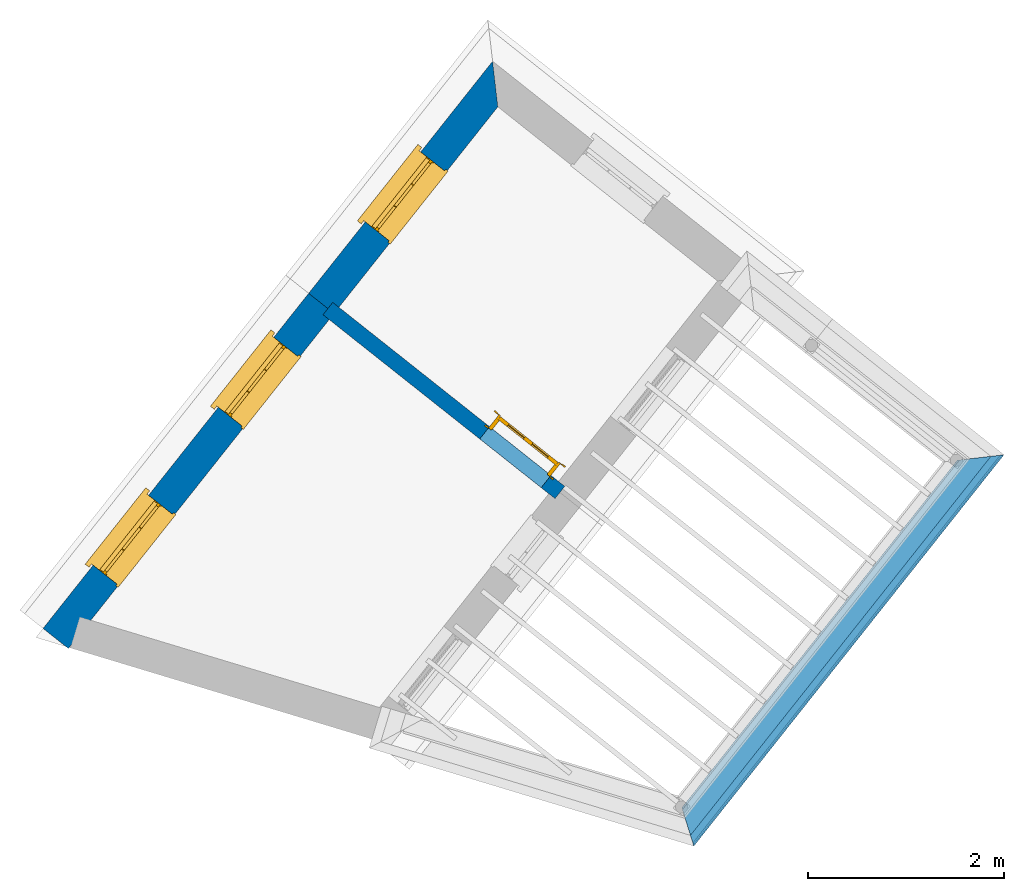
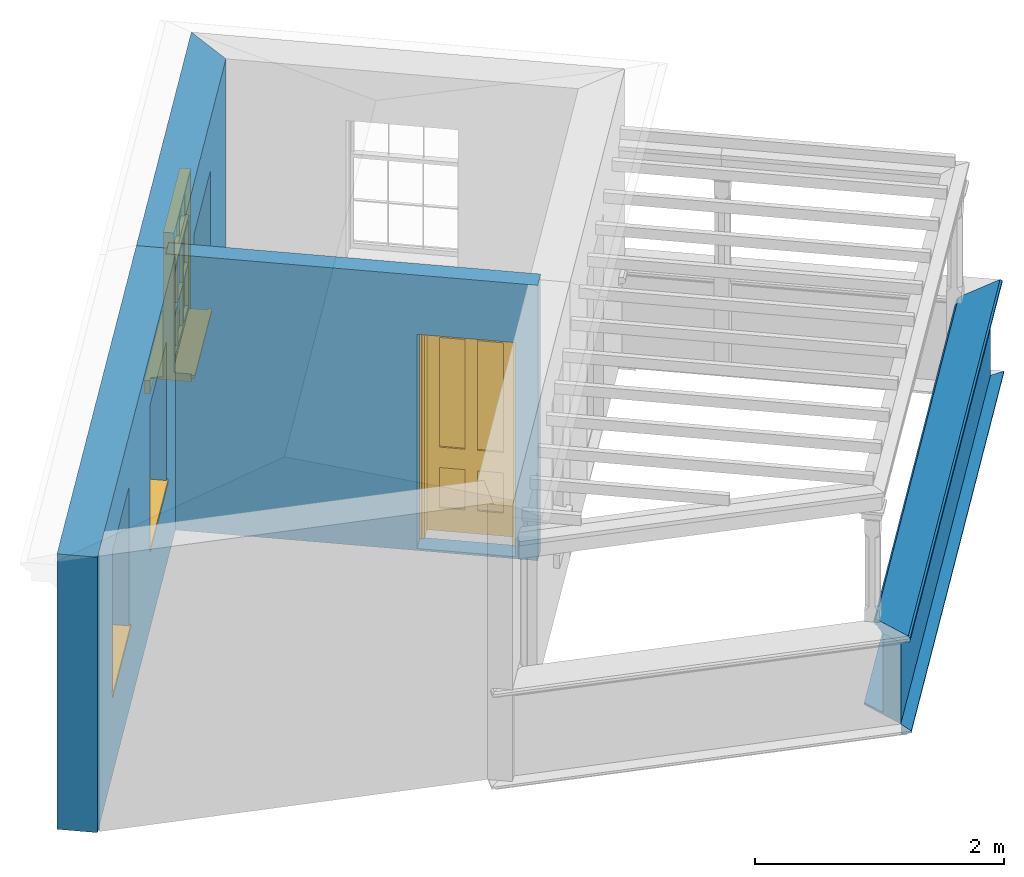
# One storey, part 3 of 5: 6 walls, 3 windows, 1 door, 4 openings.
"""IFC4 building model written with IfcOpenShell, lengths in metres."""

from ifc_helpers import new_model, si_unit, frame, origin, origin_with_axes, place, context, subcontext, project, spatial, polyline, outline, extrude, clip, halfspace, faceted_brep, source, transform, mapped, material, layer, layer_set, layer_usage, material_profile, profile_set, profile_usage, type_object, type_shapes, element, fill, save


model = new_model("IFC4")

# Units and contexts
model_context = context("Model", 3, world=origin_with_axes())
body_context = subcontext(model_context, "Body", "Model", "MODEL_VIEW")
ifc_project = project(units=[si_unit("PLANEANGLEUNIT", "RADIAN"), si_unit("MASSUNIT", "GRAM", prefix="KILO"), si_unit("FORCEUNIT", "NEWTON", prefix="KILO"), si_unit("LENGTHUNIT", "METRE"), si_unit("AREAUNIT", "SQUARE_METRE"), si_unit("VOLUMEUNIT", "CUBIC_METRE")], contexts=[model_context, model_context])

# Sites, building, storey
site_1_placement = place(None, origin_with_axes())
site_1 = spatial("IfcSite", under=ifc_project, at=site_1_placement, Name="Tamar")
site_2_placement = place(site_1_placement, origin_with_axes())
site_2 = spatial("IfcSite", under=site_1, at=site_2_placement, Name="Site plot-5", CompositionType="ELEMENT")
building_placement = place(None, origin_with_axes())
building = spatial("IfcBuilding", under=site_2, at=building_placement, Name="Building plot-5", CompositionType="ELEMENT")
storey_placement = place(None, frame((0.0, 0.0, 30.15), z_axis=(0.0, 0.0, 1.0), x_axis=(1.0, 0.0, 0.0)))
storey = spatial("IfcBuildingStorey", under=building, at=storey_placement, Name="plot-5 2", CompositionType="ELEMENT", Elevation=30.15)

# Wall, opening, window
ifc_material_1 = material(Name="Masonry")
ifc_layer_1 = layer(ifc_material_1, 0.33, ventilated=False)
ifc_layer_set_1 = layer_set([ifc_layer_1], Name="exterior_0.08_0.25")
ifc_layer_usage_1 = layer_usage(ifc_layer_set_1, "AXIS2", "POSITIVE", -0.25)
wall_type_1 = type_object("IfcWallType", Name="exterior_0.08_0.25", PredefinedType="SOLIDWALL", material=ifc_layer_set_1)
wall_1_placement = place(storey_placement, frame((229.516474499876, 277.552656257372, 0.0), z_axis=(0.0, 0.0, 1.0), x_axis=(-0.621192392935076, -0.783658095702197, 0.0)))
wall_1 = element("IfcWall", 1, at=wall_1_placement, inside=storey, type_object=wall_type_1, material=ifc_layer_usage_1, Name="exterior", context=body_context, shape_type="SweptSolid", body=[
    extrude(outline(polyline([(0.0799999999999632, 0.0799999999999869), (-0.249999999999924, -0.250000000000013), (2.77068773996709, -0.249999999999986), (2.77068773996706, 0.0799999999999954), (0.0799999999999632, 0.0799999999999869)])), origin_with_axes(), (0.0, 0.0, 1.0), 2.7),
])
opening_1_placement = place(wall_1_placement, frame((0.930343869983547, 0.0, 0.75)))
opening_1 = element("IfcOpeningElement", 2, at=opening_1_placement, cuts=wall_1, Name="My Opening", ObjectType="Opening", context=body_context, shape_type="SweptSolid", body=[
    extrude(outline(polyline([(0.0, -0.269999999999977), (0.909999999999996, -0.269999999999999), (0.909999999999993, 1.1), (-3.99680288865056e-15, 1.10000000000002), (0.0, -0.269999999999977)])), origin_with_axes(), (0.0, 0.0, 1.0), 1.445),
])
window_type = type_object("IfcWindowType", Name="sash_shorter", PartitioningType="DOUBLE_PANEL_HORIZONTAL", PredefinedType="NOTDEFINED")
shared_shape_1 = source(origin(), body_context, "Body", "Brep", [
    faceted_brep([(0.876875, 0.145, 0.999097), (0.876875, 0.145, 1.411875), (0.9, 0.145, 1.435), (0.033125, 0.145, 1.411875), (0.033125, 0.145, 0.999097), (0.01, 0.145, 1.435), (0.033125, 0.115, 1.411875), (0.01, 0.115, 1.435), (0.033125, 0.115, 0.999097), (0.876875, 0.115, 1.411875), (0.876875, 0.115, 0.999097), (0.9, 0.115, 1.435), (0.033125, 0.145, 0.960972), (0.01, 0.145, 0.960972), (0.033125, 0.145, 0.548195), (0.876875, 0.145, 0.960972), (0.876875, 0.145, 0.548195), (0.9, 0.145, 0.960972), (0.876875, 0.145, 0.538195), (0.876875, 0.145, 0.125417), (0.9, 0.145, 0.077167), (0.033125, 0.145, 0.125417), (0.033125, 0.145, 0.538195), (0.01, 0.145, 0.077167), (0.9, 0.115, 0.960972), (0.01, 0.115, 0.960972), (-0.0425, 0.0, 0.01), (-0.0425, -0.05, 0.001667), (0.0, 0.0, 0.01), (0.9525, 0.0, 0.01), (0.91, 0.0, 0.01), (0.9525, -0.05, 0.001667), (-0.02, 0.33, 0.077167), (0.0, 0.33, 0.077167), (-0.02, 0.36, 0.077167), (0.0, 0.19, 0.077167), (0.01, 0.19, 0.077167), (0.91, 0.19, 0.077167), (0.91, 0.33, 0.077167), (0.9, 0.19, 0.077167), (0.93, 0.33, 0.077167), (0.93, 0.36, 0.077167), (0.01, 0.145, 0.999097), (0.01, 0.175, 0.999097), (0.9, 0.145, 0.999097), (0.9, 0.175, 0.999097), (0.876875, 0.175, 0.125417), (0.876875, 0.175, 0.538195), (0.9, 0.175, 0.077167), (0.876875, 0.175, 0.548195), (0.876875, 0.175, 0.960972), (0.033125, 0.175, 0.125417), (0.01, 0.175, 0.077167), (0.033125, 0.175, 0.538195), (0.033125, 0.175, 0.960972), (0.033125, 0.175, 0.548195), (-0.02, 0.33, 0.052167), (-0.02, 0.36, 0.052167), (0.93, 0.36, 0.052167), (0.93, 0.33, 0.052167), (0.91, 0.33, 0.052167), (0.0, 0.33, 0.052167), (0.91, 0.1, 0.026667), (0.0, 0.1, 0.026667), (-0.0425, -0.05, -0.123333), (0.9525, -0.05, -0.123333), (-0.0425, 0.0, -0.123333), (0.9525, 0.0, -0.123333), (0.01, 0.19, 1.435), (0.9, 0.19, 1.435), (0.0, 0.19, 1.445), (0.91, 0.19, 1.445), (0.01, 0.1, 0.077167), (0.9, 0.1, 0.077167), (0.592292, 0.145, 0.125417), (0.592292, 0.175, 0.125417), (0.317708, 0.175, 0.125417), (0.317708, 0.145, 0.125417), (0.592292, 0.145, 0.548195), (0.317708, 0.145, 0.548195), (0.317708, 0.145, 0.538195), (0.592292, 0.145, 0.538195), (0.592292, 0.175, 0.548195), (0.317708, 0.175, 0.548195), (0.602292, 0.175, 0.548195), (0.602292, 0.145, 0.548195), (0.317708, 0.175, 0.538195), (0.307708, 0.175, 0.125417), (0.307708, 0.175, 0.538195), (0.602292, 0.175, 0.538195), (0.602292, 0.175, 0.125417), (0.592292, 0.175, 0.538195), (0.307708, 0.175, 0.548195), (0.317708, 0.175, 0.960972), (0.307708, 0.175, 0.960972), (0.602292, 0.175, 0.960972), (0.592292, 0.175, 0.960972), (0.307708, 0.145, 0.538195), (0.307708, 0.145, 0.125417), (0.307708, 0.145, 0.548195), (0.307708, 0.145, 0.960972), (0.592292, 0.145, 0.960972), (0.317708, 0.145, 0.960972), (0.602292, 0.145, 0.960972), (0.602292, 0.145, 0.538195), (0.602292, 0.145, 0.125417), (0.317708, 0.115, 1.411875), (0.307708, 0.115, 1.411875), (0.307708, 0.115, 0.999097), (0.317708, 0.115, 0.999097), (0.602292, 0.115, 1.411875), (0.592292, 0.115, 1.411875), (0.592292, 0.115, 0.999097), (0.602292, 0.115, 0.999097), (0.317708, 0.145, 0.999097), (0.307708, 0.145, 0.999097), (0.307708, 0.145, 1.411875), (0.317708, 0.145, 1.411875), (0.602292, 0.145, 0.999097), (0.592292, 0.145, 0.999097), (0.592292, 0.145, 1.411875), (0.602292, 0.145, 1.411875), (0.91, 0.1, 1.445), (0.9, 0.1, 1.435), (0.01, 0.1, 1.435), (0.0, 0.1, 1.445), (0.91, 0.0, 0.0), (0.0, 0.0, 0.0), (0.91, 0.33, 0.0), (0.0, 0.33, 0.0)], [[[0, 1, 2]], [[3, 4, 5]], [[6, 7, 8]], [[9, 10, 11]], [[12, 13, 14]], [[15, 16, 17]], [[18, 19, 20]], [[21, 22, 23]], [[24, 15, 17]], [[13, 12, 25]], [[26, 27, 28]], [[29, 30, 31]], [[32, 33, 34]], [[35, 36, 33]], [[37, 38, 39]], [[40, 41, 38]], [[42, 4, 43]], [[44, 45, 0]], [[46, 47, 48]], [[49, 50, 45]], [[51, 52, 53]], [[54, 55, 43]], [[38, 33, 36, 39]], [[41, 34, 33, 38]], [[56, 32, 34, 57]], [[57, 34, 41, 58]], [[58, 41, 40, 59]], [[57, 58, 60, 61]], [[52, 48, 39, 36]], [[62, 63, 28, 30]], [[27, 31, 30, 28]], [[27, 64, 65, 31]], [[66, 67, 65, 64]], [[2, 5, 68, 69]], [[68, 70, 71, 69]], [[20, 23, 72, 73]], [[73, 72, 63, 62]], [[74, 75, 76, 77]], [[78, 79, 80, 81]], [[78, 82, 83, 79]], [[16, 49, 84, 85]], [[86, 76, 87, 88]], [[89, 90, 75, 91]], [[92, 88, 53, 55]], [[82, 91, 86, 83]], [[93, 83, 92, 94]], [[95, 84, 82, 96]], [[89, 84, 49, 47]], [[97, 88, 87, 98]], [[22, 53, 88, 97]], [[81, 91, 75, 74]], [[80, 86, 91, 81]], [[77, 76, 86, 80]], [[99, 92, 55, 14]], [[100, 94, 92, 99]], [[101, 96, 82, 78]], [[79, 83, 93, 102]], [[85, 84, 95, 103]], [[104, 89, 47, 18]], [[105, 90, 89, 104]], [[104, 18, 16, 85]], [[80, 97, 98, 77]], [[104, 81, 74, 105]], [[103, 101, 78, 85]], [[99, 14, 22, 97]], [[102, 100, 99, 79]], [[106, 107, 108, 109]], [[110, 111, 112, 113]], [[114, 115, 116, 117]], [[118, 119, 120, 121]], [[107, 116, 115, 108]], [[111, 120, 119, 112]], [[109, 114, 117, 106]], [[113, 118, 121, 110]], [[85, 78, 81, 104]], [[84, 89, 91, 82]], [[83, 86, 88, 92]], [[79, 99, 97, 80]], [[109, 112, 119, 114]], [[102, 93, 96, 101]], [[106, 117, 120, 111]], [[98, 87, 51, 21]], [[6, 3, 116, 107]], [[110, 121, 1, 9]], [[19, 46, 90, 105]], [[26, 66, 64, 27]], [[29, 31, 65, 67]], [[25, 24, 112, 109]], [[11, 7, 106, 111]], [[75, 48, 52, 76]], [[43, 45, 96, 93]], [[45, 43, 114, 119]], [[5, 2, 120, 117]], [[24, 25, 102, 101]], [[42, 5, 4]], [[2, 44, 0]], [[49, 45, 48, 47]], [[52, 43, 55, 53]], [[14, 13, 23, 22]], [[20, 17, 16, 18]], [[24, 11, 10]], [[25, 8, 7]], [[8, 4, 3, 6]], [[9, 1, 0, 10]], [[15, 50, 49, 16]], [[18, 47, 46, 19]], [[21, 51, 53, 22]], [[14, 55, 54, 12]], [[44, 2, 69, 45]], [[68, 5, 42, 43]], [[36, 35, 70, 68]], [[39, 69, 71, 37]], [[62, 122, 123, 73]], [[63, 72, 124, 125]], [[8, 108, 115, 4]], [[113, 10, 0, 118]], [[94, 100, 12, 54]], [[17, 20, 73, 24]], [[72, 23, 13, 25]], [[52, 36, 68, 43]], [[69, 39, 48, 45]], [[11, 24, 73, 123]], [[7, 124, 72, 25]], [[23, 77, 98]], [[98, 21, 23]], [[105, 74, 20]], [[20, 19, 105]], [[20, 74, 77, 23]], [[113, 112, 24]], [[24, 10, 113]], [[25, 109, 108]], [[108, 8, 25]], [[110, 9, 11]], [[11, 111, 110]], [[7, 6, 107]], [[107, 106, 7]], [[5, 117, 116]], [[116, 3, 5]], [[121, 120, 2]], [[2, 1, 121]], [[11, 123, 124, 7]], [[122, 125, 124, 123]], [[43, 93, 94]], [[94, 54, 43]], [[96, 45, 95]], [[50, 95, 45]], [[15, 103, 95, 50]], [[48, 75, 90]], [[90, 46, 48]], [[87, 76, 52]], [[52, 51, 87]], [[103, 15, 24]], [[24, 101, 103]], [[100, 102, 25]], [[25, 12, 100]], [[115, 114, 43]], [[43, 4, 115]], [[118, 0, 45]], [[45, 119, 118]], [[71, 70, 125, 122]], [[70, 35, 63, 125]], [[122, 62, 37, 71]], [[126, 67, 66, 127]], [[60, 58, 59]], [[38, 60, 59, 40]], [[61, 56, 57]], [[32, 56, 61, 33]], [[61, 60, 128, 129]], [[62, 60, 38, 37]], [[126, 128, 60, 62]], [[33, 61, 63, 35]], [[61, 129, 127, 63]], [[128, 126, 127, 129]], [[28, 127, 66, 26]], [[63, 127, 28]], [[29, 67, 126, 30]], [[30, 126, 62]]]),
])
type_shapes(window_type, [shared_shape_1])
window_1_placement = place(storey_placement, frame((228.726964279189, 276.991306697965, 0.75), z_axis=(0.0, 0.0, 1.0), x_axis=(-0.565285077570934, -0.713128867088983, 0.0)))
window_1 = element("IfcWindow", 3, at=window_1_placement, inside=storey, type_object=window_type, Name="circulation outside window", OverallHeight=1.445, OverallWidth=0.91, context=body_context, shape_type="MappedRepresentation", body=[
    mapped(shared_shape_1, transform((0.0, 0.0, 0.0), scale=1.0)),
])
fill(opening_1, window_1)

# Wall, openings, windows
wall_2_placement = place(storey_placement, frame((227.79534435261, 275.381384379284, 0.0), z_axis=(0.0, 0.0, 1.0), x_axis=(-0.621192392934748, -0.783658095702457, 0.0)))
wall_2 = element("IfcWall", 4, at=wall_2_placement, inside=storey, type_object=wall_type_1, material=ifc_layer_usage_1, Name="exterior", context=body_context, shape_type="SweptSolid", body=[
    extrude(outline(polyline([(2.39305944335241e-14, 0.079999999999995), (-8.25852849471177e-14, -0.249999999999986), (4.36249502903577, -0.249999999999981), (4.36249502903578, 0.0800000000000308), (2.39305944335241e-14, 0.079999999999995)])), origin_with_axes(), (0.0, 0.0, 1.0), 2.7),
])
opening_2_placement = place(wall_2_placement, frame((0.573123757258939, 0.0, 0.75)))
opening_2 = element("IfcOpeningElement", 5, at=opening_2_placement, cuts=wall_2, Name="My Opening", ObjectType="Opening", context=body_context, shape_type="SweptSolid", body=[
    extrude(outline(polyline([(0.0, -0.270000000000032), (0.909999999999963, -0.270000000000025), (0.909999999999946, 1.09999999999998), (-1.69864122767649e-14, 1.09999999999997), (0.0, -0.270000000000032)])), origin_with_axes(), (0.0, 0.0, 1.0), 1.445),
])
opening_3_placement = place(wall_2_placement, frame((2.62937127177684, 0.0, 0.75)))
opening_3 = element("IfcOpeningElement", 6, at=opening_3_placement, cuts=wall_2, Name="My Opening", ObjectType="Opening", context=body_context, shape_type="SweptSolid", body=[
    extrude(outline(polyline([(0.0, -0.270000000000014), (0.909999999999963, -0.270000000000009), (0.909999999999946, 1.1), (-1.68753899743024e-14, 1.09999999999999), (0.0, -0.270000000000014)])), origin_with_axes(), (0.0, 0.0, 1.0), 1.445),
])
window_2_placement = place(storey_placement, frame((227.227736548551, 275.099973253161, 0.75), z_axis=(0.0, 0.0, 1.0), x_axis=(-0.565285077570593, -0.71312886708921, 0.0)))
window_2 = element("IfcWindow", 7, at=window_2_placement, inside=storey, type_object=window_type, Name="bedroom outside window", OverallHeight=1.445, OverallWidth=0.91, context=body_context, shape_type="MappedRepresentation", body=[
    mapped(shared_shape_1, transform((0.0, 0.0, 0.0), scale=1.0)),
])
fill(opening_2, window_2)
window_3_placement = place(storey_placement, frame((225.950411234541, 273.488578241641, 0.75), z_axis=(0.0, 0.0, 1.0), x_axis=(-0.565285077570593, -0.71312886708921, 0.0)))
window_3 = element("IfcWindow", 8, at=window_3_placement, inside=storey, type_object=window_type, Name="bedroom outside window", OverallHeight=1.445, OverallWidth=0.91, context=body_context, shape_type="MappedRepresentation", body=[
    mapped(shared_shape_1, transform((0.0, 0.0, 0.0), scale=1.0)),
])
fill(opening_3, window_3)

# Wall, opening, door
ifc_material_2 = material(Name="Masonry")
ifc_layer_2 = layer(ifc_material_2, 0.16, ventilated=False)
ifc_layer_set_2 = layer_set([ifc_layer_2], Name="interior_0.08_0.08")
ifc_layer_usage_2 = layer_usage(ifc_layer_set_2, "AXIS2", "POSITIVE", -0.08)
wall_type_2 = type_object("IfcWallType", Name="interior_0.08_0.08", PredefinedType="SOLIDWALL", material=ifc_layer_set_2)
wall_3_placement = place(storey_placement, frame((227.79534435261, 275.381384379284, 0.0), z_axis=(0.0, 0.0, 1.0), x_axis=(0.783658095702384, -0.621192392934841, 0.0)))
wall_3 = element("IfcWall", 9, at=wall_3_placement, inside=storey, type_object=wall_type_2, material=ifc_layer_usage_2, Name="interior", context=body_context, shape_type="SweptSolid", body=[
    extrude(outline(polyline([(-3.15701658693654e-15, 0.0800000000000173), (3.11169227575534e-15, -0.0800000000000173), (3.02031657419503, -0.080000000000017), (3.02031657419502, 0.0800000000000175), (-3.15701658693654e-15, 0.0800000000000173)])), origin_with_axes(), (0.0, 0.0, 1.0), 2.7),
])
opening_4_placement = place(wall_3_placement, frame((2.04031657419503, 0.0, 0.0199999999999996)))
opening_4 = element("IfcOpeningElement", 10, at=opening_4_placement, cuts=wall_3, Name="My Opening", ObjectType="Opening", context=body_context, shape_type="SweptSolid", body=[
    extrude(outline(polyline([(0.0, -0.100000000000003), (0.800000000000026, -0.100000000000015), (0.800000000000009, 1.09999999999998), (-1.73194791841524e-14, 1.09999999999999), (0.0, -0.100000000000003)])), origin_with_axes(), (0.0, 0.0, 1.0), 2.1),
])
door_type = type_object("IfcDoorType", Name="door_inside", OperationType="SINGLE_SWING_LEFT", PredefinedType="NOTDEFINED")
shared_shape_2 = source(origin(), body_context, "Body", "Brep", [
    faceted_brep([(0.773, 0.33, 1.895), (0.66, 0.33, 1.895), (0.66, 0.33, 2.073), (0.773, 0.33, 2.073), (0.773, 0.33, 0.82), (0.66, 0.33, 0.82), (0.45, 0.33, 1.895), (0.45, 0.33, 2.073), (0.773, 0.33, 0.62), (0.66, 0.33, 0.62), (0.66, 0.315, 0.82), (0.66, 0.315, 1.895), (0.45, 0.315, 1.895), (0.35, 0.33, 1.895), (0.35, 0.33, 2.073), (0.773, 0.33, 0.225), (0.66, 0.33, 0.225), (0.45, 0.33, 0.62), (0.45, 0.33, 0.82), (0.45, 0.315, 0.82), (0.35, 0.33, 0.82), (0.14, 0.33, 2.073), (0.14, 0.33, 1.895), (0.773, 0.33, 0.0), (0.66, 0.33, 0.0), (0.66, 0.315, 0.225), (0.66, 0.315, 0.62), (0.45, 0.315, 0.62), (0.35, 0.33, 0.62), (0.35, 0.315, 0.82), (0.35, 0.315, 1.895), (0.14, 0.315, 1.895), (0.027, 0.33, 2.073), (0.027, 0.33, 1.895), (0.773, 0.292, 0.0), (0.66, 0.292, 0.0), (0.45, 0.33, 0.0), (0.45, 0.33, 0.225), (0.45, 0.315, 0.225), (0.35, 0.33, 0.225), (0.14, 0.33, 0.82), (0.14, 0.33, 0.62), (0.14, 0.315, 0.82), (0.027, 0.33, 0.82), (0.773, 0.292, 0.225), (0.66, 0.292, 0.225), (0.45, 0.292, 0.0), (0.35, 0.33, 0.0), (0.35, 0.315, 0.225), (0.35, 0.315, 0.62), (0.14, 0.315, 0.62), (0.027, 0.33, 0.62), (0.773, 0.292, 0.62), (0.66, 0.292, 0.62), (0.45, 0.292, 0.225), (0.35, 0.292, 0.0), (0.14, 0.33, 0.225), (0.14, 0.33, 0.0), (0.14, 0.315, 0.225), (0.027, 0.33, 0.225), (0.773, 0.292, 0.82), (0.66, 0.292, 0.82), (0.66, 0.307, 0.62), (0.66, 0.307, 0.225), (0.45, 0.307, 0.225), (0.35, 0.292, 0.225), (0.14, 0.292, 0.0), (0.027, 0.33, 0.0), (0.773, 0.292, 1.895), (0.66, 0.292, 1.895), (0.45, 0.292, 0.62), (0.45, 0.292, 0.82), (0.45, 0.307, 0.62), (0.35, 0.292, 0.62), (0.14, 0.292, 0.225), (0.027, 0.292, 0.0), (0.773, 0.292, 2.073), (0.66, 0.292, 2.073), (0.66, 0.307, 1.895), (0.66, 0.307, 0.82), (0.45, 0.307, 0.82), (0.35, 0.292, 0.82), (0.35, 0.307, 0.62), (0.35, 0.307, 0.225), (0.14, 0.307, 0.225), (0.027, 0.292, 0.225), (0.45, 0.292, 1.895), (0.45, 0.292, 2.073), (0.45, 0.307, 1.895), (0.35, 0.292, 1.895), (0.14, 0.292, 0.82), (0.14, 0.292, 0.62), (0.14, 0.307, 0.62), (0.027, 0.292, 0.62), (0.35, 0.292, 2.073), (0.35, 0.307, 1.895), (0.35, 0.307, 0.82), (0.14, 0.307, 0.82), (0.027, 0.292, 0.82), (0.14, 0.292, 2.073), (0.14, 0.292, 1.895), (0.14, 0.307, 1.895), (0.027, 0.292, 1.895), (0.027, 0.292, 2.073), (0.02, 0.335, 0.0), (0.005, 0.34, 0.0), (0.005, 0.34, 2.095), (0.02, 0.335, 2.08), (0.02, 0.33, 0.0), (0.0, 0.335, 0.0), (0.0, 0.335, 2.1), (0.795, 0.34, 2.095), (0.78, 0.335, 2.08), (0.02, 0.33, 2.08), (0.0, 0.33, 0.0), (-0.032, 0.345, 0.0), (-0.032, 0.345, 2.132), (0.8, 0.335, 2.1), (0.795, 0.34, 0.0), (0.78, 0.335, 0.0), (0.78, 0.33, 2.08), (0.04, 0.29, 0.0), (0.025, 0.29, 0.0), (0.025, 0.29, 2.075), (0.04, 0.29, 2.06), (-0.04, 0.34, 0.0), (-0.04, 0.34, 2.14), (0.832, 0.345, 2.132), (0.8, 0.335, 0.0), (0.78, 0.33, 0.0), (0.8, 0.33, 0.0), (0.86, 0.33, 0.0), (0.86, 0.33, 2.16), (0.8, 0.33, 2.1), (-0.06, 0.33, 2.16), (0.0, 0.33, 2.1), (-0.06, 0.33, 0.0), (-0.04, 0.345, 0.0), (-0.04, 0.345, 2.14), (0.84, 0.34, 2.14), (0.832, 0.345, 0.0), (0.84, 0.34, 0.0), (0.86, 0.345, 0.0), (0.86, 0.345, 2.16), (-0.06, 0.345, 2.16), (-0.06, 0.345, 0.0), (0.84, 0.345, 0.0), (0.84, 0.345, 2.14), (-0.025, 0.155, 0.0), (-0.025, 0.16, 0.0), (-0.025, 0.16, 2.125), (-0.025, 0.155, 2.125), (-0.017, 0.155, 0.0), (-0.017, 0.155, 2.117), (0.825, 0.16, 2.125), (0.825, 0.155, 2.125), (0.825, 0.155, 0.0), (0.845, 0.155, 0.0), (-0.045, 0.155, 2.145), (-0.045, 0.155, 0.0), (0.845, 0.155, 2.145), (0.015, 0.165, 0.0), (0.015, 0.165, 2.085), (0.817, 0.155, 2.117), (0.825, 0.16, 0.0), (0.845, 0.17, 0.0), (0.845, 0.17, 2.145), (-0.045, 0.17, 2.145), (-0.045, 0.17, 0.0), (0.02, 0.16, 0.0), (0.02, 0.16, 2.08), (0.785, 0.165, 2.085), (0.817, 0.155, 0.0), (0.8, 0.17, 0.0), (0.8, 0.17, 2.1), (0.0, 0.17, 2.1), (0.0, 0.17, 0.0), (0.035, 0.165, 0.0), (0.035, 0.165, 2.065), (0.78, 0.16, 2.08), (0.785, 0.165, 0.0), (0.775, 0.29, 2.075), (0.76, 0.29, 2.06), (0.035, 0.17, 2.065), (0.035, 0.17, 0.0), (0.765, 0.165, 2.065), (0.78, 0.16, 0.0), (0.765, 0.17, 0.0), (0.765, 0.17, 2.065), (0.765, 0.165, 0.0), (0.04, 0.17, 2.06), (0.04, 0.17, 0.0), (0.76, 0.17, 2.06), (0.76, 0.17, 0.0), (0.76, 0.29, 0.0), (0.775, 0.29, 0.0), (0.025, 0.33, 0.0), (0.025, 0.33, 2.075), (0.775, 0.33, 0.0), (0.775, 0.33, 2.075)], [[[0, 1, 2, 3]], [[1, 0, 4, 5]], [[1, 6, 7, 2]], [[8, 9, 5, 4]], [[1, 5, 10, 11]], [[6, 1, 11, 12]], [[6, 13, 14, 7]], [[15, 16, 9, 8]], [[9, 17, 18, 5]], [[5, 18, 19, 10]], [[10, 19, 12, 11]], [[18, 6, 12, 19]], [[18, 20, 13, 6]], [[21, 14, 13, 22]], [[23, 24, 16, 15]], [[9, 16, 25, 26]], [[17, 9, 26, 27]], [[17, 28, 20, 18]], [[13, 20, 29, 30]], [[22, 13, 30, 31]], [[32, 21, 22, 33]], [[34, 35, 24, 23]], [[24, 36, 37, 16]], [[16, 37, 38, 25]], [[25, 38, 27, 26]], [[37, 17, 27, 38]], [[37, 39, 28, 17]], [[40, 20, 28, 41]], [[20, 40, 42, 29]], [[31, 30, 29, 42]], [[40, 22, 31, 42]], [[33, 22, 40, 43]], [[35, 34, 44, 45]], [[35, 46, 36, 24]], [[36, 47, 39, 37]], [[28, 39, 48, 49]], [[41, 28, 49, 50]], [[43, 40, 41, 51]], [[45, 44, 52, 53]], [[46, 35, 45, 54]], [[46, 55, 47, 36]], [[56, 39, 47, 57]], [[39, 56, 58, 48]], [[50, 49, 48, 58]], [[56, 41, 50, 58]], [[51, 41, 56, 59]], [[53, 52, 60, 61]], [[45, 53, 62, 63]], [[54, 45, 63, 64]], [[55, 46, 54, 65]], [[55, 66, 57, 47]], [[59, 56, 57, 67]], [[61, 60, 68, 69]], [[70, 53, 61, 71]], [[53, 70, 72, 62]], [[72, 64, 63, 62]], [[70, 54, 64, 72]], [[65, 54, 70, 73]], [[65, 74, 66, 55]], [[67, 57, 66, 75]], [[69, 68, 76, 77]], [[61, 69, 78, 79]], [[71, 61, 79, 80]], [[73, 70, 71, 81]], [[65, 73, 82, 83]], [[74, 65, 83, 84]], [[74, 85, 75, 66]], [[86, 69, 77, 87]], [[69, 86, 88, 78]], [[88, 80, 79, 78]], [[86, 71, 80, 88]], [[81, 71, 86, 89]], [[73, 81, 90, 91]], [[73, 91, 92, 82]], [[83, 82, 92, 84]], [[91, 74, 84, 92]], [[91, 93, 85, 74]], [[89, 86, 87, 94]], [[81, 89, 95, 96]], [[90, 81, 96, 97]], [[90, 98, 93, 91]], [[94, 99, 100, 89]], [[89, 100, 101, 95]], [[101, 97, 96, 95]], [[100, 90, 97, 101]], [[100, 102, 98, 90]], [[99, 103, 102, 100]], [[32, 103, 99, 21]], [[102, 103, 32, 33]], [[98, 102, 33, 43]], [[21, 99, 94, 14]], [[94, 87, 7, 14]], [[7, 87, 77, 2]], [[76, 3, 2, 77]], [[43, 51, 93, 98]], [[51, 59, 85, 93]], [[67, 75, 85, 59]], [[34, 23, 15, 44]], [[44, 15, 8, 52]], [[52, 8, 4, 60]], [[0, 68, 60, 4]], [[0, 3, 76, 68]], [[104, 105, 106, 107]], [[104, 108, 109, 105]], [[105, 109, 110, 106]], [[107, 106, 111, 112]], [[107, 113, 108, 104]], [[114, 109, 108]], [[109, 115, 116, 110]], [[106, 110, 117, 111]], [[112, 111, 118, 119]], [[113, 107, 112, 120]], [[121, 122, 123, 124]], [[115, 109, 114, 125]], [[115, 125, 126, 116]], [[110, 116, 127, 117]], [[111, 117, 128, 118]], [[118, 128, 129, 119]], [[120, 112, 119, 129]], [[130, 129, 128]], [[130, 131, 132, 133]], [[133, 132, 134, 135]], [[135, 134, 136, 114]], [[136, 125, 114]], [[125, 137, 138, 126]], [[116, 126, 139, 127]], [[117, 127, 140, 128]], [[141, 130, 128, 140]], [[131, 130, 141]], [[131, 142, 143, 132]], [[132, 143, 144, 134]], [[134, 144, 145, 136]], [[137, 125, 136, 145]], [[143, 142, 146]], [[143, 146, 147]], [[137, 145, 144]], [[143, 147, 138]], [[138, 137, 144]], [[143, 138, 144]], [[126, 138, 147, 139]], [[127, 139, 141, 140]], [[142, 131, 141, 146]], [[139, 147, 146, 141]], [[148, 149, 150, 151]], [[149, 152, 153, 150]], [[151, 150, 154, 155]], [[155, 156, 157]], [[158, 159, 148]], [[158, 148, 151]], [[155, 157, 160]], [[158, 151, 155]], [[155, 160, 158]], [[152, 161, 162, 153]], [[150, 153, 163, 154]], [[155, 154, 164, 156]], [[156, 164, 165, 157]], [[157, 165, 166, 160]], [[160, 166, 167, 158]], [[158, 167, 168, 159]], [[161, 169, 170, 162]], [[153, 162, 171, 163]], [[154, 163, 172, 164]], [[165, 164, 173]], [[165, 173, 174, 166]], [[166, 174, 175, 167]], [[167, 175, 176, 168]], [[169, 177, 178, 170]], [[162, 170, 179, 171]], [[163, 171, 180, 172]], [[172, 180, 173, 164]], [[124, 123, 181, 182]], [[183, 178, 177, 184]], [[170, 178, 185, 179]], [[171, 179, 186, 180]], [[187, 173, 180]], [[185, 188, 187, 189]], [[188, 185, 178, 183]], [[179, 185, 189, 186]], [[189, 187, 180, 186]], [[190, 183, 184, 191]], [[192, 188, 183, 190]], [[191, 184, 122, 121]], [[124, 190, 191, 121]], [[193, 187, 188, 192]], [[182, 192, 190, 124]], [[184, 176, 122]], [[194, 195, 187, 193]], [[192, 182, 194, 193]], [[161, 176, 184]], [[114, 108, 122, 176]], [[173, 187, 195]], [[152, 149, 176, 161]], [[169, 161, 184, 177]], [[196, 122, 108]], [[176, 175, 135, 114]], [[173, 195, 129, 130]], [[176, 149, 168]], [[123, 122, 196, 197]], [[196, 108, 113, 197]], [[175, 174, 133, 135]], [[198, 129, 195]], [[133, 174, 173, 130]], [[159, 168, 149, 148]], [[181, 123, 197, 199]], [[197, 113, 120, 199]], [[199, 120, 129, 198]], [[195, 181, 199, 198]], [[195, 194, 182, 181]]]),
])
type_shapes(door_type, [shared_shape_2])
door_placement = place(storey_placement, frame((229.33213571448, 274.035589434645, 0.0199999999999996), z_axis=(0.0, 0.0, 1.0), x_axis=(0.62692647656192, -0.496953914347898, 0.0)))
door = element("IfcDoor", 11, at=door_placement, inside=storey, type_object=door_type, Name="bedroom inside door", OverallHeight=2.1, OverallWidth=0.8, context=body_context, shape_type="MappedRepresentation", body=[
    mapped(shared_shape_2, transform((0.0, 0.0, 0.0), scale=1.0)),
])
fill(opening_4, door)

# Walls
ifc_material_profile_1 = material_profile(None, outline(polyline([(0.25, 0.0), (0.25, 0.795), (0.09, 0.795), (0.09, 0.02), (-0.08, 0.02), (-0.08, 0.0), (0.25, 0.0)])))
ifc_profile_set_1 = profile_set([ifc_material_profile_1])
ifc_profile_usage_1 = profile_usage(ifc_profile_set_1)
wall_type_3 = type_object("IfcWallType", Name="parapet_0", PredefinedType="PARAPET", material=ifc_profile_set_1)
wall_4_placement = place(storey_placement, frame((234.829513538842, 274.617167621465, 0.0), z_axis=(-0.621192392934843, -0.783658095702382, 0.0), x_axis=(0.783658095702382, -0.621192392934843, 0.0)))
element("IfcWall", 12, at=wall_4_placement, inside=storey, type_object=wall_type_3, material=ifc_profile_usage_1, Name="parapet_0", context=body_context, shape_type="Clipping", body=[
    clip(clip(extrude(outline(polyline([(0.25, 0.0), (0.25, 0.795), (0.09, 0.795), (0.09, 0.02), (-0.08, 0.02), (-0.08, 0.0), (0.25, 0.0)])), origin_with_axes(), (0.0, 0.0, 1.0), 6.51473191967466), halfspace(frame((0.0, 0.0, 5.51473191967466), z_axis=(0.562203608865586, 0.0, -0.826998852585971), x_axis=(0.0, 1.0, 0.0)), True)), halfspace(frame((0.0, 0.0, 1.0), z_axis=(-0.707106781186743, 0.0, -0.707106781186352), x_axis=(0.0, 1.0, 0.0)), False)),
])
ifc_material_profile_2 = material_profile(None, outline(polyline([(0.265, 0.795), (0.268, 0.807), (0.274, 0.816), (0.283, 0.822), (0.295, 0.825), (0.295, 0.84), (0.305, 0.84), (0.317, 0.842), (0.326, 0.849), (0.333, 0.858), (0.335, 0.87), (0.333, 0.882), (0.326, 0.891), (0.317, 0.898), (0.305, 0.9), (0.035, 0.9), (0.023, 0.898), (0.014, 0.891), (0.007, 0.882), (0.005, 0.87), (0.007, 0.858), (0.014, 0.849), (0.023, 0.842), (0.035, 0.84), (0.045, 0.84), (0.045, 0.825), (0.057, 0.822), (0.066, 0.816), (0.072, 0.807), (0.075, 0.795), (0.265, 0.795)])))
ifc_profile_set_2 = profile_set([ifc_material_profile_2])
ifc_profile_usage_2 = profile_usage(ifc_profile_set_2)
wall_type_4 = type_object("IfcWallType", Name="parapet_1", PredefinedType="PARAPET", material=ifc_profile_set_2)
wall_5_placement = place(storey_placement, frame((234.829513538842, 274.617167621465, 0.0), z_axis=(-0.621192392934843, -0.783658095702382, 0.0), x_axis=(0.783658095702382, -0.621192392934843, 0.0)))
element("IfcWall", 13, at=wall_5_placement, inside=storey, type_object=wall_type_4, material=ifc_profile_usage_2, Name="parapet_1", context=body_context, shape_type="Clipping", body=[
    clip(clip(extrude(outline(polyline([(0.265, 0.795), (0.268, 0.807), (0.274, 0.816), (0.283, 0.822), (0.295, 0.825), (0.295, 0.84), (0.305, 0.84), (0.317, 0.842), (0.326, 0.849), (0.333, 0.858), (0.335, 0.87), (0.333, 0.882), (0.326, 0.891), (0.317, 0.898), (0.305, 0.9), (0.035, 0.9), (0.023, 0.898), (0.014, 0.891), (0.007, 0.882), (0.005, 0.87), (0.007, 0.858), (0.014, 0.849), (0.023, 0.842), (0.035, 0.84), (0.045, 0.84), (0.045, 0.825), (0.057, 0.822), (0.066, 0.816), (0.072, 0.807), (0.075, 0.795), (0.265, 0.795)])), origin_with_axes(), (0.0, 0.0, 1.0), 6.51473191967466), halfspace(frame((0.0, 0.0, 5.51473191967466), z_axis=(0.562203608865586, 0.0, -0.826998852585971), x_axis=(0.0, 1.0, 0.0)), True)), halfspace(frame((0.0, 0.0, 1.0), z_axis=(-0.707106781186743, 0.0, -0.707106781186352), x_axis=(0.0, 1.0, 0.0)), False)),
])
ifc_material_profile_3 = material_profile(None, outline(polyline([(0.25, -0.1), (0.265, -0.1), (0.265, -0.085), (0.278, -0.084), (0.289, -0.081), (0.301, -0.074), (0.309, -0.065), (0.315, -0.055), (0.324, -0.044), (0.334, -0.038), (0.345, -0.035), (0.345, -0.015), (0.25, 0.0), (0.25, -0.1)])))
ifc_profile_set_3 = profile_set([ifc_material_profile_3])
ifc_profile_usage_3 = profile_usage(ifc_profile_set_3)
wall_type_5 = type_object("IfcWallType", Name="parapet_2", PredefinedType="PARAPET", material=ifc_profile_set_3)
wall_6_placement = place(storey_placement, frame((234.829513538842, 274.617167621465, 0.0), z_axis=(-0.621192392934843, -0.783658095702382, 0.0), x_axis=(0.783658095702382, -0.621192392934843, 0.0)))
element("IfcWall", 14, at=wall_6_placement, inside=storey, type_object=wall_type_5, material=ifc_profile_usage_3, Name="parapet_2", context=body_context, shape_type="Clipping", body=[
    clip(clip(extrude(outline(polyline([(0.25, -0.1), (0.265, -0.1), (0.265, -0.085), (0.278, -0.084), (0.289, -0.081), (0.301, -0.074), (0.309, -0.065), (0.315, -0.055), (0.324, -0.044), (0.334, -0.038), (0.345, -0.035), (0.345, -0.015), (0.25, 0.0), (0.25, -0.1)])), origin_with_axes(), (0.0, 0.0, 1.0), 6.51473191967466), halfspace(frame((0.0, 0.0, 5.51473191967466), z_axis=(0.562203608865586, 0.0, -0.826998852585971), x_axis=(0.0, 1.0, 0.0)), True)), halfspace(frame((0.0, 0.0, 1.0), z_axis=(-0.707106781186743, 0.0, -0.707106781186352), x_axis=(0.0, 1.0, 0.0)), False)),
])

save(model, "model.ifc")
